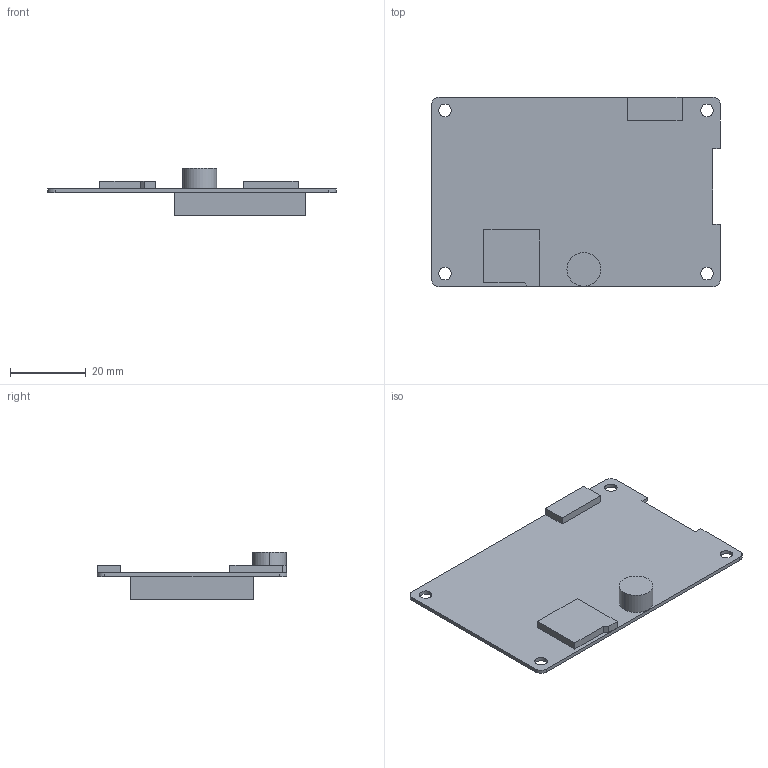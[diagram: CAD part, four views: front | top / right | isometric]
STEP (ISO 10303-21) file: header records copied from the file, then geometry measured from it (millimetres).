
FILE_DESCRIPTION((''),'2;1');
FILE_NAME('3D-DMG24240C015-03WTC-220902','2022-09-02T',('Administrator'),(''),'PRO/ENGINEER BY PARAMETRIC TECHNOLOGY CORPORATION, 2008380','PRO/ENGINEER BY PARAMETRIC TECHNOLOGY CORPORATION, 2008380','');
FILE_SCHEMA(('CONFIG_CONTROL_DESIGN'));
Length unit declared in the file: millimetre
Products named in the file (1): 3D-DMG24240C015-03WTC-220902
Bounding box: 76 x 50 x 12.63 mm (x, y, z)
Volume: 11533 mm3; surface area: 8912.9 mm2
Topology: 1 solids, 1 shells, 42 faces, 6502 edges, 10924 vertices
Faces by surface type: plane 28, cylinder 14
Entity records: 35258 total; most frequent: DIRECTION 8551, CARTESIAN_POINT 6617, TRIMMED_CURVE 6394, VECTOR 4539, LINE 4539, AXIS2_PLACEMENT_3D 2006, CIRCLE 1963, ORIENTED_EDGE 216
